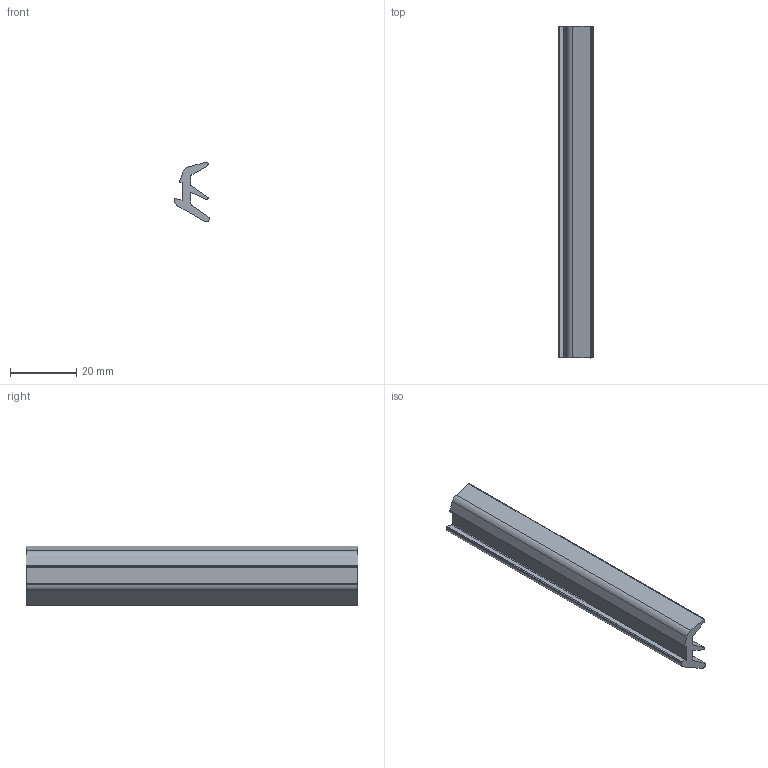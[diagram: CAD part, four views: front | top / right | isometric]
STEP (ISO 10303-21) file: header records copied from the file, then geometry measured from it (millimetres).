
FILE_DESCRIPTION (( 'STEP AP203' ), '1' );
FILE_NAME ('0108DP2-4.STEP', '2024-09-02T08:04:57', ( 'Windows-Benutzer' ), ( '' ), 'SwSTEP 2.0', 'SolidWorks 2024', '' );
FILE_SCHEMA (( 'CONFIG_CONTROL_DESIGN' ));
Length unit declared in the file: millimetre
Products named in the file (1): 0108DP2-4
Bounding box: 10.5 x 100 x 17.99 mm (x, y, z)
Volume: 6780.1 mm3; surface area: 6868.8 mm2
Topology: 1 solids, 1 shells, 36 faces, 102 edges, 68 vertices
Faces by surface type: plane 19, cylinder 17
Entity records: 1257 total; most frequent: DIRECTION 210, CARTESIAN_POINT 207, ORIENTED_EDGE 204, EDGE_CURVE 102, AXIS2_PLACEMENT_3D 71, VECTOR 68, LINE 68, VERTEX_POINT 68
